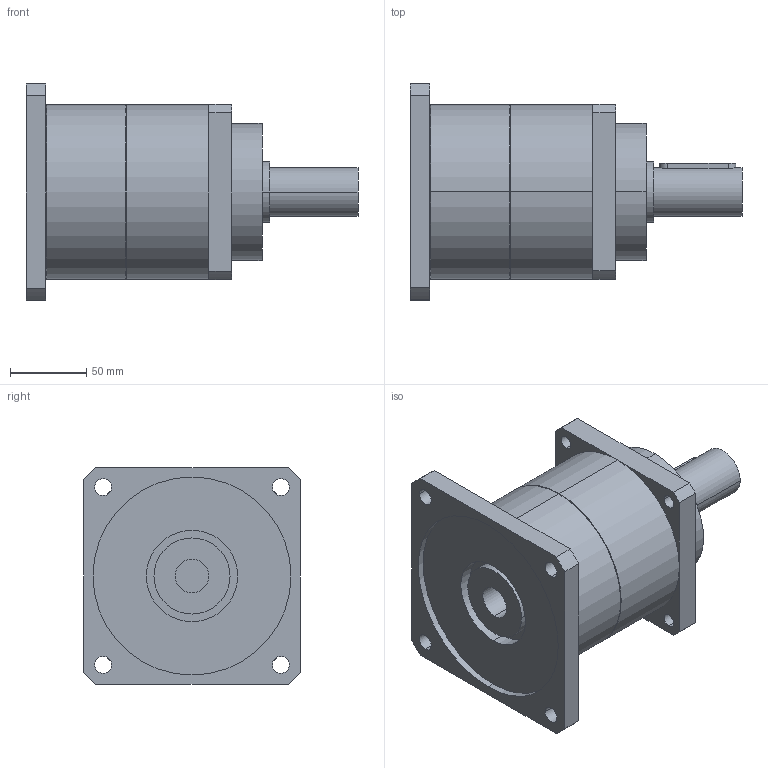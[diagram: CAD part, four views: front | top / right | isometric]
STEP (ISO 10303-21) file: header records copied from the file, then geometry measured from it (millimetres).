
FILE_DESCRIPTION(('CoCreate Modeling STEP Export'),'2;1');
FILE_NAME('GPT120_ig-3-4-5-7-10_32_B5A_22_P08.stp','2015-02-04T16:59:24',(''),(''),'CoCreate Modeling STEP processor for AP214 (Solid Model)','CoCreate Modeling 16.00C 25-Feb-2009 (C) Parametric Technology GmbH','');
FILE_SCHEMA(('AUTOMOTIVE_DESIGN { 1 0 10303 214 1 1 1 1 }'));
Length unit declared in the file: millimetre
Products named in the file (2): GPT120_ig-3-4-5-7-10_32_B5A_22_P08
Assembly tree (1 placements, depth 2):
  GPT120_ig-3-4-5-7-10_32_B5A_22_P08
    GPT120_ig-3-4-5-7-10_32_B5A_22_P08
Bounding box: 218 x 142 x 142 mm (x, y, z)
Volume: 1648315.5 mm3; surface area: 122717.3 mm2
Topology: 1 solids, 1 shells, 77 faces, 204 edges, 139 vertices
Faces by surface type: cylinder 46, plane 27, cone 4
Entity records: 2568 total; most frequent: CARTESIAN_POINT 759, ORIENTED_EDGE 408, DIRECTION 320, EDGE_CURVE 204, VERTEX_POINT 139, AXIS2_PLACEMENT_3D 118, EDGE_LOOP 103, VECTOR 84
